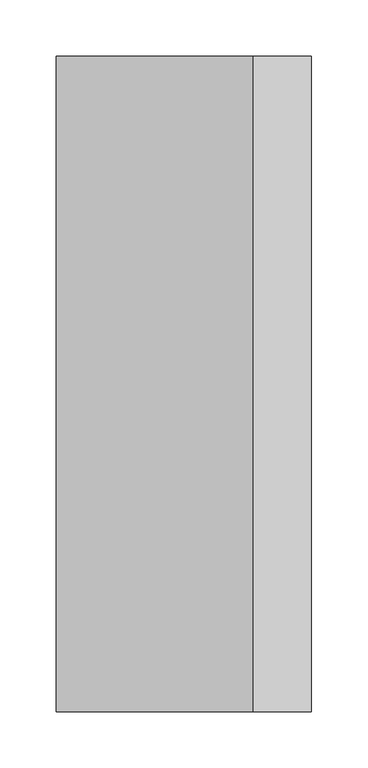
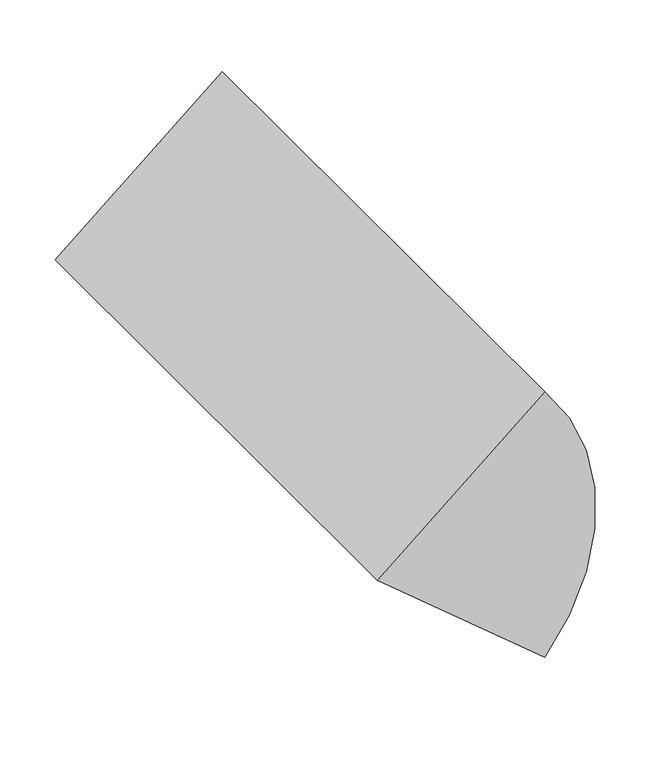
"""IFC4 building model written with IfcOpenShell, lengths in millimetres: proxy geometry, CAMBRIDGE^TABLE 3_2 BASE BOAT-BASE DOOR."""

import ifcopenshell
import ifcopenshell.guid

model = None  # the IFC model being written
_history = None  # IfcOwnerHistory: only IFC2X3 demands one
_inside = {}  # id of a spatial element -> (the spatial element, [elements in it])
_under = {}  # id of a project, library or spatial element -> (it, [spatial elements below it])
_declared = {}  # id of a project -> (the project, [libraries it declares])
_typed = {}  # id of a type object -> (the type object, [elements of that type])
_made_of = {}  # id of a material, layer set ... -> (it, [elements and type objects made of it])


def new_model(schema):
    """Start an empty IFC model of exactly this schema.

    Asked for "IFC4X3", IfcOpenShell would pick the latest addendum, in which some entities
    have other attributes; the version numbers below select the first issue.
    IFC2X3 requires an IfcOwnerHistory on every rooted entity: one is made here for all.
    """
    global model, _history
    if schema == "IFC4X3":
        model = ifcopenshell.file(schema_version=(4, 3, 0, 0))
    else:
        model = ifcopenshell.file(schema=schema)
    _inside.clear()
    _under.clear()
    _declared.clear()
    _typed.clear()
    _made_of.clear()
    _history = None
    if model.schema == "IFC2X3":
        org = make("IfcOrganization", Name="unknown")
        user = make(
            "IfcPersonAndOrganization",
            ThePerson=make("IfcPerson", FamilyName="unknown"),
            TheOrganization=org,
        )
        app = make(
            "IfcApplication",
            ApplicationDeveloper=org,
            Version="unknown",
            ApplicationFullName="unknown",
            ApplicationIdentifier="unknown",
        )
        _history = make(
            "IfcOwnerHistory",
            OwningUser=user,
            OwningApplication=app,
            ChangeAction="ADDED",
            CreationDate=0,
        )
    return model


def make(cls, **values):
    """One entity of the class cls with the attributes given. An attribute that is None is left unset."""
    return model.create_entity(
        cls, **{name: value for name, value in values.items() if value is not None}
    )


def rooted(cls, **values):
    """An entity with a GlobalId (a new one), such as an element, a storey or a relation."""
    return make(cls, GlobalId=ifcopenshell.guid.new(), OwnerHistory=_history, **values)


def si_unit(unit_type, name, prefix=None):
    """IfcSIUnit, for example si_unit("LENGTHUNIT", "METRE", prefix="MILLI")."""
    return make("IfcSIUnit", UnitType=unit_type, Prefix=prefix, Name=name)


def assignment(units):
    """IfcUnitAssignment: the units of a project."""
    return None if units is None else make("IfcUnitAssignment", Units=units)


def point(xyz):
    """IfcCartesianPoint."""
    return None if xyz is None else make("IfcCartesianPoint", Coordinates=xyz)


def direction(xyz):
    """IfcDirection."""
    return None if xyz is None else make("IfcDirection", DirectionRatios=xyz)


def frame(location, z_axis=None, x_axis=None):
    """IfcAxis2Placement3D, a coordinate frame: its origin and axes. An axis left out is left unset."""
    return make(
        "IfcAxis2Placement3D",
        Location=point(location),
        Axis=direction(z_axis),
        RefDirection=direction(x_axis),
    )


def frame_2d(location, x_axis=None):
    """IfcAxis2Placement2D, a coordinate frame in the plane: its origin and x axis."""
    return make(
        "IfcAxis2Placement2D", Location=point(location), RefDirection=direction(x_axis)
    )


def origin():
    """The frame at (0, 0, 0) with its axes left unset."""
    return frame((0.0, 0.0, 0.0))


def place(relative_to, where):
    """IfcLocalPlacement: puts the frame where relative to a parent placement (None: the world)."""
    return make(
        "IfcLocalPlacement", PlacementRelTo=relative_to, RelativePlacement=where
    )


def context(
    kind, dimensions, precision=None, world=None, true_north=None, identifier=None
):
    """IfcGeometricRepresentationContext, for example the 3D "Model" context."""
    return make(
        "IfcGeometricRepresentationContext",
        ContextIdentifier=identifier,
        ContextType=kind,
        CoordinateSpaceDimension=dimensions,
        Precision=precision,
        WorldCoordinateSystem=world,
        TrueNorth=true_north,
    )


def project(units=None, contexts=None):
    """IfcProject with its units and contexts."""
    return rooted(
        "IfcProject",
        Name="project",
        RepresentationContexts=contexts,
        UnitsInContext=assignment(units),
    )


def spatial(cls, under=None, at=None, **own):
    """A site, building, storey or space (cls), placed at a placement, below another one or the project."""
    s = rooted(cls, ObjectPlacement=at, **own)
    if under is not None:
        _under.setdefault(under.id(), (under, []))[1].append(s)
    return s


def polyline(points):
    """IfcPolyline through the points."""
    return make("IfcPolyline", Points=[point(p) for p in points])


def circle_curve(where, radius):
    """IfcCircle in the frame where."""
    return make("IfcCircle", Position=where, Radius=radius)


def trimmed(basis, trim1, trim2, sense, master):
    """IfcTrimmedCurve: the piece of a basis curve between two trims."""
    return make(
        "IfcTrimmedCurve",
        BasisCurve=basis,
        Trim1=trim1,
        Trim2=trim2,
        SenseAgreement=sense,
        MasterRepresentation=master,
    )


def segment(curve, same_sense, transition):
    """IfcCompositeCurveSegment."""
    return make(
        "IfcCompositeCurveSegment",
        Transition=transition,
        SameSense=same_sense,
        ParentCurve=curve,
    )


def composite_curve(segments, self_intersect=None):
    """IfcCompositeCurve: segments joined end to end."""
    return make("IfcCompositeCurve", Segments=segments, SelfIntersect=self_intersect)


def outline(outer, holes=None, kind="AREA"):
    """IfcArbitraryClosedProfileDef: a profile drawn as a closed curve; with holes, ...WithVoids."""
    if holes is None:
        return make("IfcArbitraryClosedProfileDef", ProfileType=kind, OuterCurve=outer)
    return make(
        "IfcArbitraryProfileDefWithVoids",
        ProfileType=kind,
        OuterCurve=outer,
        InnerCurves=holes,
    )


def extrude(swept, where, along, depth):
    """IfcExtrudedAreaSolid: the profile swept, set in the frame where, extruded along a direction by depth."""
    return make(
        "IfcExtrudedAreaSolid",
        SweptArea=swept,
        Position=where,
        ExtrudedDirection=direction(along),
        Depth=depth,
    )


def shape(context_of_items, identifier, shape_type, items):
    """IfcShapeRepresentation: the items that make up one representation, for example the "Body"."""
    return make(
        "IfcShapeRepresentation",
        ContextOfItems=context_of_items,
        RepresentationIdentifier=identifier,
        RepresentationType=shape_type,
        Items=items,
    )


def source(mapping_origin, context_of_items, identifier, shape_type, items):
    """IfcRepresentationMap: a shape defined once, which mapped items show again and again."""
    return make(
        "IfcRepresentationMap",
        MappingOrigin=mapping_origin,
        MappedRepresentation=shape(context_of_items, identifier, shape_type, items),
    )


def transform(
    local_origin,
    x_axis=None,
    y_axis=None,
    z_axis=None,
    scale=None,
    scale2=None,
    scale3=None,
    uniform=True,
):
    """IfcCartesianTransformationOperator3D, or its non-uniform kind. x_axis, y_axis, z_axis: its Axis1, 2, 3."""
    if uniform:
        return make(
            "IfcCartesianTransformationOperator3D",
            Axis1=direction(x_axis),
            Axis2=direction(y_axis),
            LocalOrigin=point(local_origin),
            Scale=scale,
            Axis3=direction(z_axis),
        )
    return make(
        "IfcCartesianTransformationOperator3DnonUniform",
        Axis1=direction(x_axis),
        Axis2=direction(y_axis),
        LocalOrigin=point(local_origin),
        Scale=scale,
        Axis3=direction(z_axis),
        Scale2=scale2,
        Scale3=scale3,
    )


def mapped(mapping_source, mapping_target):
    """IfcMappedItem: shows the shape of a source again, moved by a transform."""
    return make(
        "IfcMappedItem", MappingSource=mapping_source, MappingTarget=mapping_target
    )


def made_of(thing, what):
    """Note that an element or type object is made of a material, layer set ...; save() writes the relation."""
    if what is not None:
        _made_of.setdefault(what.id(), (what, []))[1].append(thing)
    return thing


def element(
    cls,
    number,
    at=None,
    inside=None,
    cuts=None,
    type_object=None,
    material=None,
    context=None,
    identifier="Body",
    shape_type=None,
    held_by="IfcProductDefinitionShape",
    body=None,
    shapes=None,
    **own,
):
    """One element of the class cls, such as IfcWall. Its Tag is "e" and its number.

    at: its placement. inside: the storey or other place that contains it. cuts: it is an
    opening in that element (IfcRelVoidsElement). A single representation is given by context,
    identifier, shape_type and body (its items); several are given by shapes. held_by: the class
    of the entity that holds the representations. save() writes the other relations.
    """
    e = rooted(cls, Tag="e%d" % number, ObjectPlacement=at, **own)
    if body is not None:
        shapes = [shape(context, identifier, shape_type, body)]
    if shapes is not None:
        e.Representation = make(held_by, Representations=shapes)
    if inside is not None:
        _inside.setdefault(inside.id(), (inside, []))[1].append(e)
    if cuts is not None:
        rooted(
            "IfcRelVoidsElement", RelatingBuildingElement=cuts, RelatedOpeningElement=e
        )
    if type_object is not None:
        _typed.setdefault(type_object.id(), (type_object, []))[1].append(e)
    return made_of(e, material)


def aggregate(whole, parts):
    """IfcRelAggregates: a whole, such as a stair, and the parts it consists of."""
    return rooted("IfcRelAggregates", RelatingObject=whole, RelatedObjects=parts)


def save(model, path):
    """Write the relations noted so far, then the file.

    IfcRelAggregates (storeys below a building ...), IfcRelContainedInSpatialStructure (elements
    in a storey), IfcRelDefinesByType, IfcRelAssociatesMaterial and IfcRelDeclares: one each for
    every whole, place, type object, material and project.
    """
    for whole, parts in _under.values():
        aggregate(whole, parts)
    for where, things in _inside.values():
        rooted(
            "IfcRelContainedInSpatialStructure",
            RelatedElements=things,
            RelatingStructure=where,
        )
    for kind, things in _typed.values():
        rooted("IfcRelDefinesByType", RelatedObjects=things, RelatingType=kind)
    for what, things in _made_of.values():
        rooted("IfcRelAssociatesMaterial", RelatedObjects=things, RelatingMaterial=what)
    for by, libraries in _declared.values():
        rooted("IfcRelDeclares", RelatingContext=by, RelatedDefinitions=libraries)
    model.write(path)


def generic_models_b2afe65e(model_context):
    return source(origin(), model_context, "Body", "SweptSolid", [
        extrude(outline(composite_curve([segment(polyline([(-685.8, -762.0), (-832.7412476, -586.8822403)]), True, "CONTINUOUS"), segment(trimmed(circle_curve(frame_2d((-685.8, -762.0)), 228.6), [point((-832.7412476, -586.8822403))], [point((-538.8587524, -586.8822403))], False, "CARTESIAN"), True, "CONTINUOUS"), segment(polyline([(-538.8587524, -586.8822403), (-685.8, -762.0)]), True, "CONTINUOUS")], self_intersect=False)), frame((0.0, -615.95, 0.0), z_axis=(0.0, 1.0, 0.0), x_axis=(0.0, 0.0, 1.0)), (0.0, 0.0, 1.0), 584.2),
    ])


if __name__ == "__main__":
    model = new_model("IFC4")
    model_context = context("Model", 3, world=origin())
    ifc_project = project(units=[si_unit("LENGTHUNIT", "METRE", prefix="MILLI")], contexts=[model_context])
    site = spatial("IfcSite", under=ifc_project)
    building = spatial("IfcBuilding", under=site)
    placement = place(None, origin())
    generic_models_shape = generic_models_b2afe65e(model_context)
    element("IfcBuildingElementProxy", 1, Name="CAMBRIDGE^TABLE 3_2 BASE BOAT-BASE DOOR", ObjectType="CAMBRIDGE^TABLE 3_2 BASE BOAT-BASE DOOR", at=placement, inside=building, context=model_context, shape_type="MappedRepresentation", body=[
        mapped(generic_models_shape, transform((0.0, 0.0, 0.0), x_axis=(1.0, 0.0, 0.0), y_axis=(0.0, 1.0, 0.0), z_axis=(0.0, 0.0, 1.0))),
    ])
    save(model, "model.ifc")
